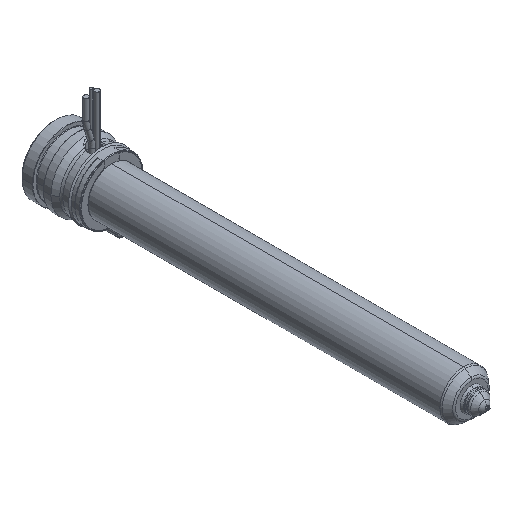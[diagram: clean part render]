
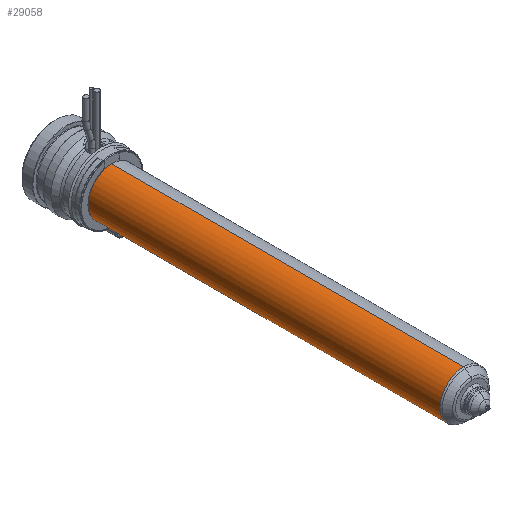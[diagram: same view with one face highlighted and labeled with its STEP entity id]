
A CAD part, isometric view. The second image highlights one B-rep face of the part: STEP entity #29058.
In plain terms, the highlighted cylindrical face has radius 9 mm (diameter 18 mm), a partial arc.
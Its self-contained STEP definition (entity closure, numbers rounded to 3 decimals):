
#28447=CARTESIAN_POINT('',(0.,-155.836,0.));
#28448=DIRECTION('',(0.,-1.,0.));
#28449=DIRECTION('',(0.,0.,1.));
#28450=AXIS2_PLACEMENT_3D('',#28447,#28448,#28449);
#28455=CARTESIAN_POINT('',(0.,-22.,0.));
#28456=DIRECTION('',(0.,-1.,0.));
#28457=DIRECTION('',(0.,0.,1.));
#28458=AXIS2_PLACEMENT_3D('',#28455,#28456,#28457);
#28463=DIRECTION('',(0.,-1.,0.));
#28464=VECTOR('',#28463,133.836);
#28465=CARTESIAN_POINT('',(0.,-22.,9.));
#28466=LINE('',#28465,#28464);
#28478=DIRECTION('',(0.,-1.,0.));
#28479=VECTOR('',#28478,133.836);
#28480=CARTESIAN_POINT('',(0.,-22.,-9.));
#28481=LINE('',#28480,#28479);
#28675=CARTESIAN_POINT('',(0.,-22.,9.));
#28676=CARTESIAN_POINT('',(0.,-155.836,9.));
#28677=VERTEX_POINT('',#28675);
#28678=VERTEX_POINT('',#28676);
#28701=CARTESIAN_POINT('',(0.,-22.,-9.));
#28702=CARTESIAN_POINT('',(0.,-155.836,-9.));
#28703=VERTEX_POINT('',#28701);
#28704=VERTEX_POINT('',#28702);
#29044=CARTESIAN_POINT('',(0.,-10.625,0.));
#29045=DIRECTION('',(0.,-1.,0.));
#29046=DIRECTION('',(0.,0.,1.));
#29047=AXIS2_PLACEMENT_3D('',#29044,#29045,#29046);
#29048=CYLINDRICAL_SURFACE('',#29047,9.);
#29050=ORIENTED_EDGE('',*,*,#29049,.T.);
#29051=ORIENTED_EDGE('',*,*,#29039,.T.);
#29053=ORIENTED_EDGE('',*,*,#29052,.F.);
#29055=ORIENTED_EDGE('',*,*,#29054,.F.);
#29056=EDGE_LOOP('',(#29050,#29051,#29053,#29055));
#29057=FACE_OUTER_BOUND('',#29056,.F.);
#29058=ADVANCED_FACE('',(#29057),#29048,.T.);
#28451=CIRCLE('',#28450,9.);
#28459=CIRCLE('',#28458,9.);
#29039=EDGE_CURVE('',#28678,#28704,#28451,.T.);
#29049=EDGE_CURVE('',#28677,#28678,#28466,.T.);
#29052=EDGE_CURVE('',#28703,#28704,#28481,.T.);
#29054=EDGE_CURVE('',#28677,#28703,#28459,.T.);
